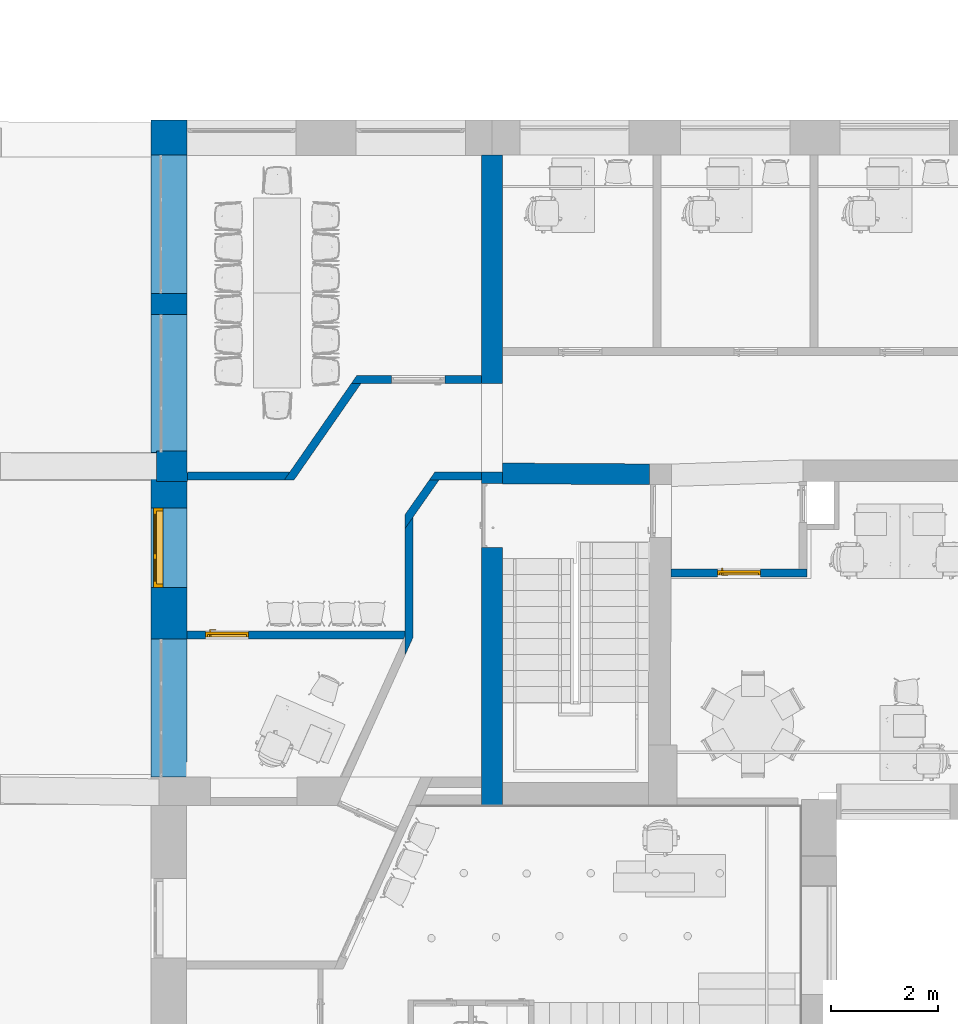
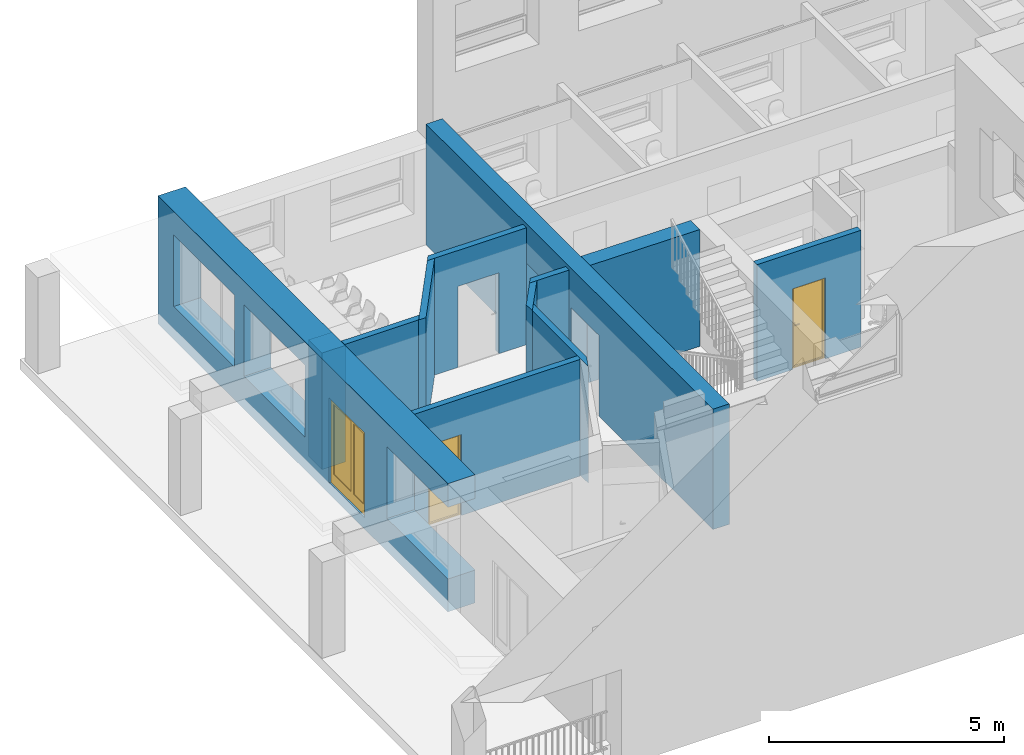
# One storey, part 4 of 25: 12 walls, 3 doors, 11 openings.
"""IFC2X3 building model written with IfcOpenShell, lengths in millimetres."""

from ifc_helpers import new_model, entity, si_unit, converted_unit, derived_unit, direction, frame, frame_2d, origin, origin_2d_with_axis, place, context, subcontext, project, spatial, polyline, rectangle, outline, extrude, clip, bounded_halfspace, faceted_brep, source, transform, mapped, material, material_list, layer, layer_set, layer_usage, type_object, type_shapes, element, fill, save


model = new_model("IFC2X3")

# Units and contexts
model_context = context("Model", 3, precision=0.01, world=origin(), true_north=direction((6.12303176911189e-17, 1.0)))
context_of_model = context(None, 3, precision=0.01, world=origin(), true_north=direction((6.12303176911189e-17, 1.0)))
body_context = subcontext(model_context, "Body", "Model", "MODEL_VIEW")
ifc_project = project(units=[si_unit("LENGTHUNIT", "METRE", prefix="MILLI"), si_unit("AREAUNIT", "SQUARE_METRE"), si_unit("VOLUMEUNIT", "CUBIC_METRE"), converted_unit("PLANEANGLEUNIT", "DEGREE", entity("IfcRatioMeasure", 0.0174532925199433), si_unit("PLANEANGLEUNIT", "RADIAN"), dimensions=[0, 0, 0, 0, 0, 0, 0]), si_unit("MASSUNIT", "GRAM", prefix="KILO"), derived_unit("MASSDENSITYUNIT", [(si_unit("MASSUNIT", "GRAM", prefix="KILO"), 1), (si_unit("LENGTHUNIT", "METRE"), -3)]), si_unit("TIMEUNIT", "SECOND"), si_unit("FREQUENCYUNIT", "HERTZ"), si_unit("THERMODYNAMICTEMPERATUREUNIT", "DEGREE_CELSIUS"), derived_unit("THERMALTRANSMITTANCEUNIT", [(si_unit("MASSUNIT", "GRAM", prefix="KILO"), 1), (si_unit("THERMODYNAMICTEMPERATUREUNIT", "KELVIN"), -1), (si_unit("TIMEUNIT", "SECOND"), -3)]), derived_unit("VOLUMETRICFLOWRATEUNIT", [(si_unit("LENGTHUNIT", "METRE"), 3), (si_unit("TIMEUNIT", "SECOND"), -1)]), si_unit("ELECTRICCURRENTUNIT", "AMPERE"), si_unit("ELECTRICVOLTAGEUNIT", "VOLT"), si_unit("POWERUNIT", "WATT"), si_unit("FORCEUNIT", "NEWTON", prefix="KILO"), si_unit("ILLUMINANCEUNIT", "LUX"), si_unit("LUMINOUSFLUXUNIT", "LUMEN"), si_unit("LUMINOUSINTENSITYUNIT", "CANDELA"), derived_unit("USERDEFINED", [(si_unit("MASSUNIT", "GRAM", prefix="KILO"), -1), (si_unit("LENGTHUNIT", "METRE"), -2), (si_unit("TIMEUNIT", "SECOND"), 3), (si_unit("LUMINOUSFLUXUNIT", "LUMEN"), 1)]), derived_unit("LINEARVELOCITYUNIT", [(si_unit("LENGTHUNIT", "METRE"), 1), (si_unit("TIMEUNIT", "SECOND"), -1)]), si_unit("PRESSUREUNIT", "PASCAL"), derived_unit("USERDEFINED", [(si_unit("LENGTHUNIT", "METRE"), -2), (si_unit("MASSUNIT", "GRAM", prefix="KILO"), 1), (si_unit("TIMEUNIT", "SECOND"), -2)])], contexts=[model_context, context_of_model])

# Site, building, storey
site_placement = place(None, frame((121442.264707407, 135347.995453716, -1800.0)))
site = spatial("IfcSite", under=ifc_project, at=site_placement, Name="Surface", CompositionType="ELEMENT")
building_placement = place(site_placement, origin())
building = spatial("IfcBuilding", under=site, at=building_placement, CompositionType="ELEMENT")
storey_placement = place(building_placement, frame((0.0, 0.0, 1800.0)))
storey = spatial("IfcBuildingStorey", under=building, at=storey_placement, Name="1 korrus", CompositionType="ELEMENT", Elevation=1800.00000000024)

# Wall, openings
ifc_material_1 = material(Name="__Betoonelement")
ifc_layer_1 = layer(ifc_material_1, 400.0)
ifc_layer_set_1 = layer_set([ifc_layer_1], Name="Basic Wall:40_Betoon")
ifc_layer_usage_1 = layer_usage(ifc_layer_set_1, "AXIS2", "POSITIVE", -200.0)
wall_type_1 = type_object("IfcWallType", Name="Basic Wall:40_Betoon", PredefinedType="STANDARD", material=ifc_layer_set_1)
wall_1_placement = place(storey_placement, frame((-109493.017140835, -115341.919112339, 0.0), z_axis=(0.0, 0.0, 1.0), x_axis=(0.0, -1.0, 0.0)))
wall_1 = element("IfcWallStandardCase", 1, at=wall_1_placement, inside=storey, type_object=wall_type_1, material=ifc_layer_usage_1, Name="Basic Wall:40_Betoon", ObjectType="Basic Wall:40_Betoon", context=body_context, shape_type="SweptSolid", body=[
    extrude(rectangle(XDim=12198.9278561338, YDim=399.999999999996, at=frame_2d((6099.46392806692, 8.65441052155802e-12), x_axis=(1.0, 0.0))), origin(), (0.0, 0.0, 1.0), 3125.0),
])
opening_1_placement = place(wall_1_placement, origin())
element("IfcOpeningElement", 2, at=opening_1_placement, cuts=wall_1, Name="Basic Wall:40_Betoon", ObjectType="Opening", context=body_context, shape_type="SweptSolid", body=[
    extrude(rectangle(XDim=2100.0, YDim=1661.71422079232, at=frame_2d((0.0, -8.69704308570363e-12), x_axis=(1.0, 0.0))), frame((5107.92345142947, -200.0, 1050.0), z_axis=(0.0, 1.0, 0.0), x_axis=(0.0, 0.0, -1.0)), (0.0, 0.0, 1.0), 400.000000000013),
])
opening_2_placement = place(wall_1_placement, origin())
element("IfcOpeningElement", 3, at=opening_2_placement, cuts=wall_1, Name="Basic Wall:40_Betoon", ObjectType="Opening", context=body_context, shape_type="SweptSolid", body=[
    extrude(rectangle(XDim=1600.0, YDim=670.000000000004, at=frame_2d((-8.66862137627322e-12, 2.27373675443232e-13), x_axis=(0.0, 1.0))), frame((-325.0, -2550.0, 1700.0), z_axis=(0.0, 1.0, 0.0), x_axis=(1.0, 0.0, 0.0)), (0.0, 0.0, 1.0), 2050.0),
])
opening_3_placement = place(wall_1_placement, frame((7360.06748410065, 200.0, 0.0)))
element("IfcOpeningElement", 4, at=opening_3_placement, cuts=wall_1, Name="sma_D02:1200 x 2100mm SU-7 Liigendiga siseuks:1", ObjectType="Opening", context=body_context, shape_type="SweptSolid", body=[
    extrude(rectangle(XDim=2099.99999999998, YDim=1200.0, at=frame_2d((1049.99999999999, 600.0), x_axis=(1.0, 0.0))), frame((0.0, 0.0, 0.0), z_axis=(0.0, -1.0, 0.0), x_axis=(0.0, 0.0, 1.0)), (0.0, 0.0, 1.0), 400.0),
])

# Walls
ifc_layer_2 = layer(ifc_material_1, 390.0)
ifc_layer_set_2 = layer_set([ifc_layer_2], Name="Basic Wall:39_Betoon 3")
ifc_layer_usage_2 = layer_usage(ifc_layer_set_2, "AXIS2", "POSITIVE", -195.0)
wall_type_2 = type_object("IfcWallType", Name="Basic Wall:39_Betoon 3", PredefinedType="STANDARD", material=ifc_layer_set_2)
wall_2_placement = place(storey_placement, frame((-106537.124331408, -121326.048313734, 0.0), z_axis=(0.0, 0.0, 1.0), x_axis=(-0.999984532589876, 0.00556188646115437, 0.0)))
element("IfcWallStandardCase", 5, at=wall_2_placement, inside=storey, type_object=wall_type_2, material=ifc_layer_usage_2, Name="Basic Wall:39_Betoon 3", ObjectType="Basic Wall:39_Betoon 3", context=body_context, shape_type="Clipping", body=[
    clip(extrude(outline(polyline([(2757.02002124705, -195.0), (2754.87163415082, 191.263524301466), (2754.85085197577, 195.0), (0.0, 195.0), (0.00790789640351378, 186.886775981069), (0.38012996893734, -195.0), (2757.02002124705, -195.0)])), origin(), (0.0, 0.0, 1.0), 3032.0), bounded_halfspace(frame((0.380129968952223, -195.0, 3032.0), z_axis=(0.0, 0.0, -1.0), x_axis=(-0.00556188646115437, 0.999984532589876, 0.0)), True, frame((0.380129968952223, -195.0, 3032.0)), polyline([(0.0, 0.0), (2756.63989127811, 0.0), (2754.47072200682, 390.0), (-0.380129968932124, 390.0), (0.0, 0.0)]))),
])
wall_type_3 = type_object("IfcWallType", Name="Walls 53:Walls 53", PredefinedType="NOTDEFINED")
wall_3_placement = place(storey_placement, frame((-115780.841119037, -121464.090748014, 0.0)))
element("IfcWall", 6, at=wall_3_placement, inside=storey, type_object=wall_type_3, Name="Walls 53:Walls 53", ObjectType="Walls 53:Walls 53", context=body_context, shape_type="SweptSolid", body=[
    extrude(outline(polyline([(-283.687649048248, -285.434037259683), (285.674250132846, -285.434037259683), (285.674250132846, 285.434037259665), (-287.660851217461, 285.434037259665), (-283.687649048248, -285.434037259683)])), frame((285.674250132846, 285.434037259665, 0.0), z_axis=(0.0, 0.0, 1.0), x_axis=(-1.0, 0.0, 0.0)), (0.0, 0.0, 1.0), 3025.0),
])

# Wall, opening, door
ifc_material_2 = material(Name="Plaster")
ifc_layer_3 = layer(ifc_material_2, 10.0)
ifc_material_3 = material(Name="EST. Müüritis. Väikeplokk. Kergkruusplokk")
ifc_layer_4 = layer(ifc_material_3, 130.0)
ifc_layer_5 = layer(ifc_material_2, 10.0)
ifc_layer_set_3 = layer_set([ifc_layer_3, ifc_layer_4, ifc_layer_5], Name="Basic Wall:15_FIBO")
ifc_layer_usage_3 = layer_usage(ifc_layer_set_3, "AXIS2", "NEGATIVE", 75.0)
wall_type_4 = type_object("IfcWallType", Name="Basic Wall:15_FIBO", PredefinedType="STANDARD", material=ifc_layer_set_3)
wall_4_placement = place(storey_placement, frame((-106136.16630148, -123181.66176162, 0.0)))
wall_4 = element("IfcWallStandardCase", 7, at=wall_4_placement, inside=storey, type_object=wall_type_4, material=ifc_layer_usage_3, Name="Basic Wall:15_FIBO", ObjectType="Basic Wall:15_FIBO", context=body_context, shape_type="Clipping", body=[
    clip(extrude(outline(polyline([(0.0, -75.0), (2546.42613866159, -75.0), (2546.42613866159, 75.0), (0.688088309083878, 75.0), (0.0, -75.0)])), origin(), (0.0, 0.0, 1.0), 3032.0), bounded_halfspace(frame((0.0, -75.0, 3032.0), z_axis=(0.0, 0.0, -1.0), x_axis=(0.0, -1.0, 0.0)), True, frame((0.0, -75.0, 3032.0)), polyline([(0.0, 0.0), (2546.42613866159, 0.0), (2546.42613866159, 150.0), (0.688088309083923, 150.0), (0.0, 0.0)]))),
])
opening_4_placement = place(wall_4_placement, frame((870.944898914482, -75.0, 0.0)))
opening_4 = element("IfcOpeningElement", 8, at=opening_4_placement, cuts=wall_4, Name="sma_D01:810 x 2110_SU-01 Siseuks:1", ObjectType="Opening", context=body_context, shape_type="SweptSolid", body=[
    extrude(rectangle(XDim=2099.99999999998, YDim=810.0, at=frame_2d((1049.99999999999, 405.0), x_axis=(1.0, 0.0))), frame((0.0, 0.0, 0.0), z_axis=(0.0, 1.0, 0.0), x_axis=(0.0, 0.0, 1.0)), (0.0, 0.0, 1.0), 150.0),
])
ifc_material_4 = material(Name="Metal - Aluminium")
ifc_material_5 = material(Name="Door - Panel_valge")
ifc_material_list_1 = material_list([ifc_material_4, ifc_material_5])
ifc_material_list_2 = material_list([ifc_material_4, ifc_material_5])
door_style_1 = type_object("IfcDoorStyle", Name="810 x 2110_SU-01 Siseuks", ConstructionType="NOTDEFINED", OperationType="SINGLE_SWING_RIGHT", ParameterTakesPrecedence=False, Sizeable=False, material=ifc_material_list_2)
shared_shape_1 = source(origin(), body_context, "Body", "Brep", [
    faceted_brep([(100.0, 40.0, 1112.5), (100.0, 78.0, 1112.5), (75.0, 78.0, 1112.5), (75.0, 35.0, 1112.5), (195.0, 35.0, 1112.5), (195.0, 40.0, 1112.5), (100.0, 40.0, 1087.5), (195.0, 40.0, 1087.5), (195.0, 35.0, 1087.5), (75.0, 35.0, 1087.5), (75.0, 78.0, 1087.5), (100.0, 78.0, 1087.5)], [[[0, 1, 2, 3, 4, 5]], [[6, 7, 8, 9, 10, 11]], [[1, 0, 6, 11]], [[2, 1, 11, 10]], [[3, 2, 10, 9]], [[4, 3, 9, 8]], [[5, 4, 8, 7]], [[0, 5, 7, 6]]]),
    faceted_brep([(112.5, 78.0, 1137.5), (112.5, 80.0, 1137.5), (62.4999999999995, 80.0, 1137.5), (62.4999999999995, 78.0, 1137.5), (112.5, 78.0, 1017.5), (62.4999999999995, 78.0, 1017.5), (62.4999999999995, 80.0, 1017.5), (112.5, 80.0, 1017.5)], [[[0, 1, 2, 3]], [[4, 5, 6, 7]], [[1, 0, 4, 7]], [[2, 1, 7, 6]], [[3, 2, 6, 5]], [[0, 3, 5, 4]]]),
    faceted_brep([(100.0, 170.0, 1112.5), (195.0, 170.0, 1112.5), (195.0, 175.0, 1112.5), (75.0, 175.0, 1112.5), (75.0, 132.0, 1112.5), (100.0, 132.0, 1112.5), (100.0, 170.0, 1087.5), (100.0, 132.0, 1087.5), (75.0, 132.0, 1087.5), (75.0, 175.0, 1087.5), (195.0, 175.0, 1087.5), (195.0, 170.0, 1087.5)], [[[0, 1, 2, 3, 4, 5]], [[6, 7, 8, 9, 10, 11]], [[5, 7, 6, 0]], [[4, 8, 7, 5]], [[3, 9, 8, 4]], [[2, 10, 9, 3]], [[1, 11, 10, 2]], [[0, 6, 11, 1]]]),
    faceted_brep([(112.5, 132.0, 1137.5), (62.4999999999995, 132.0, 1137.5), (62.4999999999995, 130.0, 1137.5), (112.5, 130.0, 1137.5), (112.5, 132.0, 1017.5), (112.5, 130.0, 1017.5), (62.4999999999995, 130.0, 1017.5), (62.4999999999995, 132.0, 1017.5)], [[[0, 1, 2, 3]], [[4, 5, 6, 7]], [[3, 5, 4, 0]], [[2, 6, 5, 3]], [[1, 7, 6, 2]], [[0, 4, 7, 1]]]),
    faceted_brep([(810.0, 40.0, 0.0), (770.0, 40.0, 0.0), (770.0, 80.0, 0.0), (785.0, 80.0, 0.0), (785.0, 130.0, 0.0), (810.0, 130.0, 0.0), (810.0, 40.0, 2100.0), (0.0, 40.0, 2100.0), (0.0, 40.0, 0.0), (40.0, 40.0, 0.0), (40.0, 40.0, 2060.0), (770.0, 40.0, 2060.0), (770.0, 80.0, 2060.0), (40.0, 80.0, 2060.0), (40.0, 80.0, 0.0), (25.0, 80.0, 0.0), (25.0, 80.0, 2075.0), (785.0, 80.0, 2075.0), (785.0, 130.0, 2075.0), (25.0, 130.0, 2075.0), (25.0, 130.0, 0.0), (0.0, 130.0, 0.0), (0.0, 130.0, 2100.0), (810.0, 130.0, 2100.0)], [[[0, 1, 2, 3, 4, 5]], [[1, 0, 6, 7, 8, 9, 10, 11]], [[2, 1, 11, 12]], [[3, 2, 12, 13, 14, 15, 16, 17]], [[4, 3, 17, 18]], [[5, 4, 18, 19, 20, 21, 22, 23]], [[0, 5, 23, 6]], [[7, 22, 21, 8]], [[8, 21, 20, 15, 14, 9]], [[13, 10, 9, 14]], [[19, 16, 15, 20]], [[12, 11, 10, 13]], [[18, 17, 16, 19]], [[6, 23, 22, 7]]]),
    faceted_brep([(25.0, 80.0, 2075.0), (25.0, 80.0, 20.0), (785.0, 80.0, 20.0), (785.0, 80.0, 2075.0), (25.0, 130.0, 2075.0), (785.0, 130.0, 2075.0), (785.0, 130.0, 20.0), (25.0, 130.0, 20.0)], [[[0, 1, 2, 3]], [[4, 5, 6, 7]], [[1, 0, 4, 7]], [[2, 1, 7, 6]], [[3, 2, 6, 5]], [[0, 3, 5, 4]]]),
    faceted_brep([(770.0, 40.0, 30.0), (770.0, 40.0, 0.0), (770.0, 80.0, 0.0), (770.0, 80.0, 20.0), (770.0, 80.0, 30.0), (40.0, 40.0, 30.0), (40.0, 80.0, 30.0), (40.0, 80.0, 20.0), (40.0, 80.0, 0.0), (40.0, 40.0, 0.0), (25.0, 80.0, 0.0), (25.0, 130.0, 0.0), (785.0, 130.0, 0.0), (785.0, 80.0, 0.0), (785.0, 130.0, 20.0), (785.0, 80.0, 20.0), (25.0, 130.0, 20.0), (25.0, 80.0, 20.0)], [[[0, 1, 2, 3, 4]], [[5, 6, 7, 8, 9]], [[1, 0, 5, 9]], [[2, 1, 9, 8, 10, 11, 12, 13]], [[6, 4, 3, 7]], [[0, 4, 6, 5]], [[14, 15, 13, 12]], [[16, 11, 10, 17]], [[15, 14, 16, 17, 7, 3]], [[13, 15, 3, 2]], [[14, 12, 11, 16]], [[17, 10, 8, 7]]]),
])
type_shapes(door_style_1, [shared_shape_1])
door_1_placement = place(opening_4_placement, origin())
door_1 = element("IfcDoor", 9, at=door_1_placement, inside=storey, type_object=door_style_1, material=ifc_material_list_1, Name="sma_D01:810 x 2110_SU-01 Siseuks", ObjectType="810 x 2110_SU-01 Siseuks", OverallHeight=2099.99999999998, OverallWidth=810.000000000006, context=body_context, shape_type="MappedRepresentation", body=[
    mapped(shared_shape_1, transform((0.0, 0.0, 0.0), scale=1.0)),
])
fill(opening_4, door_1)

# Wall, opening
ifc_layer_usage_4 = layer_usage(ifc_layer_set_3, "AXIS2", "NEGATIVE", 75.0)
wall_5_placement = place(storey_placement, frame((-109693.017140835, -119549.76856454, 0.0), z_axis=(0.0, 0.0, 1.0), x_axis=(-1.0, 0.0, 0.0)))
wall_5 = element("IfcWallStandardCase", 10, at=wall_5_placement, inside=storey, type_object=wall_type_4, material=ifc_layer_usage_4, Name="Basic Wall:15_FIBO", ObjectType="Basic Wall:15_FIBO", context=body_context, shape_type="Clipping", body=[
    clip(extrude(outline(polyline([(0.0, -75.0), (2336.84991209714, -75.0), (2440.97755361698, 75.0), (2258.378085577, 75.0), (0.0, 75.0), (0.0, -75.0)])), origin(), (0.0, 0.0, 1.0), 3032.0), bounded_halfspace(frame((0.0, -75.0, 3032.0), z_axis=(0.0, 0.0, -1.0), x_axis=(0.0, 1.0, 0.0)), True, frame((0.0, -75.0, 3032.0)), polyline([(0.0, 0.0), (2336.84991209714, 0.0), (2440.97755361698, 150.0), (2258.378085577, 150.0), (0.0, 150.0), (0.0, 0.0)]))),
])
opening_5_placement = place(wall_5_placement, frame((680.0, -75.0, 0.0)))
element("IfcOpeningElement", 11, at=opening_5_placement, cuts=wall_5, Name="sma_D01:1010 x 2110_SU-03 Siseuks:1", ObjectType="Opening", context=body_context, shape_type="SweptSolid", body=[
    extrude(rectangle(XDim=2099.99999999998, YDim=1010.0, at=frame_2d((1049.99999999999, 505.0), x_axis=(1.0, 0.0))), frame((0.0, 0.0, 0.0), z_axis=(0.0, 1.0, 0.0), x_axis=(0.0, 0.0, 1.0)), (0.0, 0.0, 1.0), 150.0),
])

# Walls
ifc_layer_usage_5 = layer_usage(ifc_layer_set_3, "AXIS2", "NEGATIVE", 75.0)
wall_6_placement = place(storey_placement, frame((-112013.005482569, -119581.999693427, 0.0), z_axis=(0.0, 0.0, 1.0), x_axis=(-0.570251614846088, -0.821470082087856, 0.0)))
element("IfcWallStandardCase", 12, at=wall_6_placement, inside=storey, type_object=wall_type_4, material=ifc_layer_usage_5, Name="Basic Wall:15_FIBO", ObjectType="Basic Wall:15_FIBO", context=body_context, shape_type="Clipping", body=[
    clip(extrude(outline(polyline([(2307.49455586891, -75.0), (2203.36691434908, 75.0), (0.0, 75.0), (104.127641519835, -75.0), (2124.89508782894, -75.0), (2307.49455586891, -75.0)])), origin(), (0.0, 0.0, 1.0), 3032.0), bounded_halfspace(frame((104.127641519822, -75.0, 3032.0), z_axis=(0.0, 0.0, -1.0), x_axis=(0.821470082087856, 0.570251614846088, 0.0)), True, frame((104.127641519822, -75.0, 3032.0)), polyline([(0.0, 0.0), (2020.76744630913, 0.0), (2203.36691434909, 0.0), (2099.23927282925, 150.0), (-104.127641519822, 150.0), (0.0, 0.0)]))),
])
ifc_layer_usage_6 = layer_usage(ifc_layer_set_3, "AXIS2", "NEGATIVE", 75.0)
wall_7_placement = place(storey_placement, frame((-113286.340593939, -121359.76856454, 0.0), z_axis=(0.0, 0.0, 1.0), x_axis=(-1.0, 0.0, 0.0)))
element("IfcWallStandardCase", 13, at=wall_7_placement, inside=storey, type_object=wall_type_4, material=ifc_layer_usage_6, Name="Basic Wall:15_FIBO", ObjectType="Basic Wall:15_FIBO", context=body_context, shape_type="Clipping", body=[
    clip(extrude(outline(polyline([(1921.36950410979, -75.0), (1921.36950410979, 75.0), (104.12764151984, 75.0), (0.0, -75.0), (1921.36950410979, -75.0)])), origin(), (0.0, 0.0, 1.0), 3032.0), bounded_halfspace(frame((0.0, -75.0, 3032.0), z_axis=(0.0, 0.0, -1.0), x_axis=(0.0, 1.0, 0.0)), True, frame((0.0, -75.0, 3032.0)), polyline([(0.0, 0.0), (1921.36950410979, 0.0), (1921.36950410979, 150.0), (104.12764151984, 150.0), (0.0, 0.0)]))),
])
ifc_layer_usage_7 = layer_usage(ifc_layer_set_3, "AXIS2", "NEGATIVE", 75.0)
wall_8_placement = place(storey_placement, frame((-109693.017140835, -121355.699674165, 0.0), z_axis=(0.0, 0.0, 1.0), x_axis=(-1.0, 0.0, 0.0)))
element("IfcWallStandardCase", 14, at=wall_8_placement, inside=storey, type_object=wall_type_4, material=ifc_layer_usage_7, Name="Basic Wall:15_FIBO", ObjectType="Basic Wall:15_FIBO", context=body_context, shape_type="Clipping", body=[
    clip(extrude(outline(polyline([(870.168609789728, -75.0), (975.199740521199, 75.0), (792.083552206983, 75.0), (0.0, 75.0), (0.0, -75.0), (870.168609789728, -75.0)])), origin(), (0.0, 0.0, 1.0), 3032.0), bounded_halfspace(frame((0.0, -75.0, 3032.0), z_axis=(0.0, 0.0, -1.0), x_axis=(0.0, 1.0, 0.0)), True, frame((0.0, -75.0, 3032.0)), polyline([(0.0, 0.0), (870.168609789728, 0.0), (975.199740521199, 150.0), (792.083552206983, 150.0), (0.0, 150.0), (0.0, 0.0)]))),
])
ifc_layer_usage_8 = layer_usage(ifc_layer_set_3, "AXIS2", "NEGATIVE", 75.0)
wall_9_placement = place(storey_placement, frame((-110546.537096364, -121387.681441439, 0.0), z_axis=(0.0, 0.0, 1.0), x_axis=(-0.573576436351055, -0.819152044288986, 0.0)))
element("IfcWallStandardCase", 15, at=wall_9_placement, inside=storey, type_object=wall_type_4, material=ifc_layer_usage_8, Name="Basic Wall:15_FIBO", ObjectType="Basic Wall:15_FIBO", context=body_context, shape_type="Clipping", body=[
    clip(extrude(outline(polyline([(907.016656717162, -75.0), (1121.23885772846, 75.0), (859.721838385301, 75.0), (0.0, 75.0), (105.031130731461, -75.0), (907.016656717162, -75.0)])), origin(), (0.0, 0.0, 1.0), 3032.0), bounded_halfspace(frame((105.031130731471, -75.0, 3032.0), z_axis=(0.0, 0.0, -1.0), x_axis=(0.819152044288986, 0.573576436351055, 0.0)), True, frame((105.031130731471, -75.0, 3032.0)), polyline([(0.0, 0.0), (801.985525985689, 0.0), (1016.207726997, 150.0), (754.690707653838, 150.0), (-105.031130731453, 150.0), (0.0, 0.0)]))),
])
ifc_layer_usage_9 = layer_usage(ifc_layer_set_3, "AXIS2", "NEGATIVE", 75.0)
wall_10_placement = place(storey_placement, frame((-111053.216881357, -122134.942575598, 0.0), z_axis=(0.0, 0.0, 1.0), x_axis=(0.0, -1.0, 0.0)))
element("IfcWallStandardCase", 16, at=wall_10_placement, inside=storey, type_object=wall_type_4, material=ifc_layer_usage_9, Name="Basic Wall:15_FIBO", ObjectType="Basic Wall:15_FIBO", context=body_context, shape_type="Clipping", body=[
    clip(extrude(outline(polyline([(2591.61438442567, -75.0), (2259.32046989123, 75.0), (0.0, 75.0), (214.222201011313, -75.0), (2129.82598894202, -75.0), (2227.03346660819, -75.0), (2591.61438442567, -75.0)])), origin(), (0.0, 0.0, 1.0), 3032.0), bounded_halfspace(frame((214.222201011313, -75.0, 3032.0), z_axis=(0.0, 0.0, -1.0), x_axis=(1.0, 0.0, 0.0)), True, frame((214.222201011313, -75.0, 3032.0)), polyline([(0.0, 0.0), (1915.60378793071, 0.0), (2012.81126559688, 0.0), (2377.39218341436, 0.0), (2045.09826887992, 150.0), (-214.222201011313, 150.0), (0.0, 0.0)]))),
])

# Wall, opening, door
ifc_layer_usage_10 = layer_usage(ifc_layer_set_3, "AXIS2", "POSITIVE", -75.0)
wall_11_placement = place(storey_placement, frame((-115215.776610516, -124339.76856454, 0.0)))
wall_11 = element("IfcWallStandardCase", 17, at=wall_11_placement, inside=storey, type_object=wall_type_4, material=ifc_layer_usage_10, Name="Basic Wall:15_FIBO", ObjectType="Basic Wall:15_FIBO", context=body_context, shape_type="Clipping", body=[
    clip(extrude(outline(polyline([(0.0, -75.0), (4063.7287831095, -75.0), (4087.55972915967, -22.2074776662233), (4087.55972915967, 75.0), (0.0, 75.0), (0.0, -75.0)])), origin(), (0.0, 0.0, 1.0), 3032.0), bounded_halfspace(frame((0.0, -75.0, 3032.0), z_axis=(0.0, 0.0, -1.0), x_axis=(0.0, -1.0, 0.0)), True, frame((0.0, -75.0, 3032.0)), polyline([(0.0, 0.0), (4063.72878310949, 0.0), (4087.55972915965, 52.7925223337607), (4087.55972915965, 150.0), (0.0, 150.0), (0.0, 0.0)]))),
])
opening_6_placement = place(wall_11_placement, frame((350.0, -75.0, 0.0)))
opening_6 = element("IfcOpeningElement", 18, at=opening_6_placement, cuts=wall_11, Name="sma_D01:810 x 2110_SU-01 Siseuks:1", ObjectType="Opening", context=body_context, shape_type="SweptSolid", body=[
    extrude(rectangle(XDim=2099.99999999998, YDim=810.0, at=frame_2d((1049.99999999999, 405.0), x_axis=(1.0, 0.0))), frame((0.0, 0.0, 0.0), z_axis=(0.0, 1.0, 0.0), x_axis=(0.0, 0.0, 1.0)), (0.0, 0.0, 1.0), 150.0),
])
ifc_material_list_3 = material_list([ifc_material_4, ifc_material_5])
door_2_placement = place(opening_6_placement, frame((-6.56291376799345e-09, 0.0, 0.0)))
door_2 = element("IfcDoor", 19, at=door_2_placement, inside=storey, type_object=door_style_1, material=ifc_material_list_3, Name="sma_D01:810 x 2110_SU-01 Siseuks", ObjectType="810 x 2110_SU-01 Siseuks", OverallHeight=2099.99999999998, OverallWidth=810.000000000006, context=body_context, shape_type="MappedRepresentation", body=[
    mapped(shared_shape_1, transform((0.0, 0.0, 0.0), scale=1.0)),
])
fill(opening_6, door_2)

# Wall, openings, door
ifc_layer_6 = layer(ifc_material_2, 10.0)
ifc_material_6 = material(Name="EST. Soojustus. Kivivill. Default")
ifc_layer_7 = layer(ifc_material_6, 200.0)
ifc_layer_8 = layer(ifc_material_3, 450.0)
ifc_layer_9 = layer(ifc_material_2, 10.0)
ifc_layer_set_4 = layer_set([ifc_layer_6, ifc_layer_7, ifc_layer_8, ifc_layer_9], Name="Basic Wall:Uus Välissein +  Soojustus")
ifc_layer_usage_11 = layer_usage(ifc_layer_set_4, "AXIS2", "NEGATIVE", 335.0)
wall_type_5 = type_object("IfcWallType", Name="Basic Wall:Uus Välissein +  Soojustus", PredefinedType="STANDARD", material=ifc_layer_set_4)
wall_12_placement = place(storey_placement, frame((-115550.776610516, -127001.313002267, -293.0), z_axis=(0.0, 0.0, 1.0), x_axis=(0.0, 1.0, 0.0)))
wall_12 = element("IfcWallStandardCase", 20, at=wall_12_placement, inside=storey, type_object=wall_type_5, material=ifc_layer_usage_11, Name="Basic Wall:Uus Välissein +  Soojustus", ObjectType="Basic Wall:Uus Välissein +  Soojustus", context=body_context, shape_type="Clipping", body=[
    clip(extrude(rectangle(XDim=12319.3938899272, YDim=669.999999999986, at=frame_2d((6159.6969449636, -8.24229573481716e-13), x_axis=(-1.0, 0.0))), origin(), (0.0, 0.0, 1.0), 3325.0), bounded_halfspace(frame((0.0, -335.0, 3325.0), z_axis=(0.0, 0.0, -1.0), x_axis=(-1.0, 0.0, 0.0)), True, frame((0.0, -335.0, 3325.0)), polyline([(0.0, 0.0), (2586.5444377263, 0.0), (2736.5444377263, 0.0), (11897.7285110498, 0.0), (11897.7285110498, 670.0), (0.0, 670.0), (0.0, 0.0)]))),
])
opening_7_placement = place(wall_12_placement, origin())
element("IfcOpeningElement", 21, at=opening_7_placement, cuts=wall_12, Name="Basic Wall:Uus Välissein +  Soojustus", ObjectType="Opening", context=body_context, shape_type="SweptSolid", body=[
    extrude(rectangle(XDim=2099.99999999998, YDim=150.000000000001, at=frame_2d((0.0, 3.41060513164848e-13), x_axis=(0.0, 1.0))), frame((2661.54443772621, -1495.0, 1343.0), z_axis=(0.0, 1.0, 0.0), x_axis=(1.0, 0.0, 0.0)), (0.0, 0.0, 1.0), 810.000000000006),
])
opening_8_placement = place(wall_12_placement, frame((-5.15156816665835, -335.0, 853.0)))
element("IfcOpeningElement", 22, at=opening_8_placement, cuts=wall_12, Name="sma_W5:A-6 2590 x 1700mm Mitteavatav:1", ObjectType="Opening", context=body_context, shape_type="SweptSolid", body=[
    extrude(rectangle(XDim=1860.0, YDim=2590.0, at=frame_2d((930.0, 1295.0), x_axis=(1.0, 0.0))), frame((0.0, 0.0, 0.0), z_axis=(0.0, 1.0, 0.0), x_axis=(0.0, 0.0, 1.0)), (0.0, 0.0, 1.0), 670.0),
])
opening_9_placement = place(wall_12_placement, frame((3554.84843183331, -335.0, 293.0)))
opening_9 = element("IfcOpeningElement", 23, at=opening_9_placement, cuts=wall_12, Name="ULO1 - ulkolasipariovi:1400x2200 VU-1 Välisuks:1", ObjectType="Opening", context=body_context, shape_type="SweptSolid", body=[
    extrude(rectangle(XDim=2200.0, YDim=1490.0, at=frame_2d((1100.0, 745.0), x_axis=(1.0, 0.0))), frame((0.0, 0.0, 0.0), z_axis=(0.0, 1.0, 0.0), x_axis=(0.0, 0.0, 1.0)), (0.0, 0.0, 1.0), 670.0),
])
opening_10_placement = place(wall_12_placement, frame((9069.39388992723, -335.0, 853.0)))
element("IfcOpeningElement", 24, at=opening_10_placement, cuts=wall_12, Name="sma_W5:A-6 2590 x 1700mm Mitteavatav:1", ObjectType="Opening", context=body_context, shape_type="SweptSolid", body=[
    extrude(rectangle(XDim=1860.0, YDim=2590.0, at=frame_2d((930.0, 1295.0), x_axis=(1.0, 0.0))), frame((0.0, 0.0, 0.0), z_axis=(0.0, 1.0, 0.0), x_axis=(0.0, 0.0, 1.0)), (0.0, 0.0, 1.0), 670.0),
])
opening_11_placement = place(wall_12_placement, frame((6079.39388992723, -335.0, 853.0)))
element("IfcOpeningElement", 25, at=opening_11_placement, cuts=wall_12, Name="sma_W5:A-6 2590 x 1700mm Mitteavatav:1", ObjectType="Opening", context=body_context, shape_type="SweptSolid", body=[
    extrude(rectangle(XDim=1860.0, YDim=2590.0, at=frame_2d((930.0, 1295.0), x_axis=(1.0, 0.0))), frame((0.0, 0.0, 0.0), z_axis=(0.0, 1.0, 0.0), x_axis=(0.0, 0.0, 1.0)), (0.0, 0.0, 1.0), 670.0),
])
ifc_material_7 = material(Name="Metal - Paint Finish - Grey")
ifc_material_8 = material(Name="Metal")
ifc_material_9 = material(Name="Lasi - 1 lasilevy, kuvio")
ifc_material_10 = material(Name="RAL Classic 9010, matta, ruisku")
ifc_material_list_4 = material_list([ifc_material_7, ifc_material_8, ifc_material_9, ifc_material_10])
ifc_material_list_5 = material_list([ifc_material_7, ifc_material_8, ifc_material_9, ifc_material_10])
door_style_2 = type_object("IfcDoorStyle", Name="1400x2200 VU-1 Välisuks", ConstructionType="USERDEFINED", OperationType="DOUBLE_DOOR_SINGLE_SWING", ParameterTakesPrecedence=False, Sizeable=False, material=ifc_material_list_5)
shared_shape_2 = source(origin(), body_context, "Body", "SweptSolid", [
    extrude(outline(polyline([(-1085.0, -745.0), (1115.0, -745.0), (1115.0, 745.0), (-1085.0, 745.0), (-1085.0, 685.0), (1055.0, 685.0), (1055.0, -685.0), (-1085.0, -685.0), (-1085.0, -745.0)])), frame((745.0, 451.0, 1085.0), z_axis=(0.0, 1.0, 0.0), x_axis=(0.0, 0.0, 1.0)), (0.0, 0.0, 1.0), 175.0),
    extrude(rectangle(XDim=174.999999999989, YDim=1369.99999999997, at=origin_2d_with_axis()), frame((745.0, 538.499999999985, 0.0), z_axis=(0.0, 0.0, 1.0), x_axis=(0.0, 1.0, 0.0)), (0.0, 0.0, 1.0), 15.0),
    extrude(rectangle(XDim=20.0000000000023, YDim=750.000000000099, at=frame_2d((0.0, -2.8421709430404e-14), x_axis=(1.0, 0.0))), frame((1005.0, 596.0, 265.0), z_axis=(0.0, 0.0, 1.0), x_axis=(0.0, 1.0, 0.0)), (0.0, 0.0, 1.0), 1825.0),
    extrude(rectangle(XDim=20.0000000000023, YDim=419.999999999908, at=frame_2d((0.0, 2.8421709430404e-14), x_axis=(1.0, 0.0))), frame((320.0, 596.0, 265.0), z_axis=(0.0, 0.0, 1.0), x_axis=(0.0, 1.0, 0.0)), (0.0, 0.0, 1.0), 1825.0),
    extrude(outline(polyline([(-1062.5, -425.0), (1062.5, -425.0), (1062.5, 425.0), (-1062.5, 425.0), (-1062.5, -425.0)]), holes=[polyline([(-1012.5, 375.0), (812.499999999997, 375.0), (812.499999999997, -375.0), (-1012.5, -375.0), (-1012.5, 375.0)])]), frame((1005.0, 566.0, 1077.5), z_axis=(0.0, 1.0, 0.0), x_axis=(0.0, 0.0, -1.0)), (0.0, 0.0, 1.0), 60.0000000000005),
    extrude(outline(polyline([(-1062.5, -260.0), (1062.5, -260.0), (1062.5, 260.0), (-1062.5, 260.0), (-1062.5, -260.0)]), holes=[polyline([(-1012.5, 210.0), (812.499999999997, 210.0), (812.499999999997, -210.0), (-1012.5, -210.0), (-1012.5, 210.0)])]), frame((320.0, 566.0, 1077.5), z_axis=(0.0, 1.0, 0.0), x_axis=(0.0, 0.0, -1.0)), (0.0, 0.0, 1.0), 60.0000000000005),
])
type_shapes(door_style_2, [shared_shape_2])
door_3_placement = place(opening_9_placement, origin())
door_3 = element("IfcDoor", 26, at=door_3_placement, inside=storey, type_object=door_style_2, material=ifc_material_list_4, Name="ULO1 - ulkolasipariovi:1400x2200 VU-1 Välisuks", ObjectType="1400x2200 VU-1 Välisuks", OverallHeight=2200.0, OverallWidth=1490.00000000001, context=body_context, shape_type="MappedRepresentation", body=[
    mapped(shared_shape_2, transform((0.0, 0.0, 0.0), scale=1.0)),
])
fill(opening_9, door_3)

save(model, "model.ifc")
